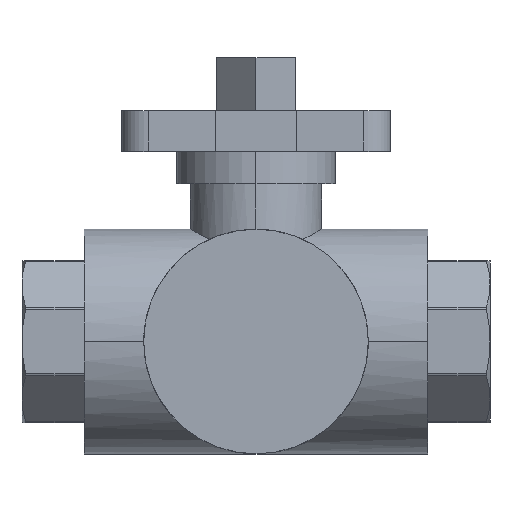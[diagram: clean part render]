
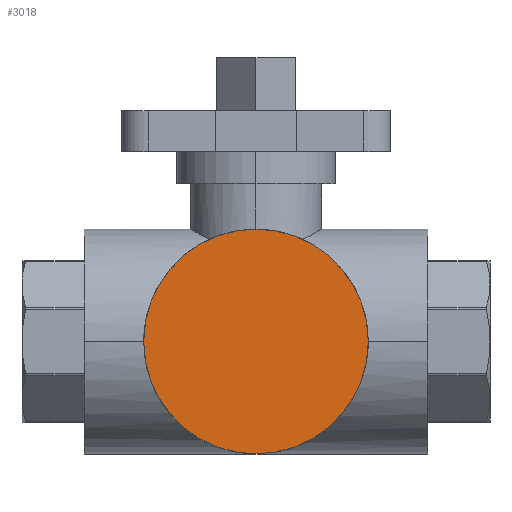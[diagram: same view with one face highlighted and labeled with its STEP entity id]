
A CAD part, top view. The second image highlights one B-rep face of the part: STEP entity #3018.
In plain terms, the highlighted planar face has unit normal (0, 0, 1).
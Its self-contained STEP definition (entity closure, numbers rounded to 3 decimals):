
#16 = VERTEX_POINT ( 'NONE', #419 ) ;
#374 = CIRCLE ( 'NONE', #3406, 18. ) ;
#419 = CARTESIAN_POINT ( 'NONE',  ( -18., 0., 18. ) ) ;
#507 = VERTEX_POINT ( 'NONE', #4413 ) ;
#764 = DIRECTION ( 'NONE',  ( -1., 0., 0. ) ) ;
#1202 = DIRECTION ( 'NONE',  ( 0., 0., 1. ) ) ;
#1990 = CARTESIAN_POINT ( 'NONE',  ( 0., 18., 18. ) ) ;
#2133 = DIRECTION ( 'NONE',  ( 0., 0., 1. ) ) ;
#2869 = CIRCLE ( 'NONE', #4003, 18. ) ;
#3018 = ADVANCED_FACE ( 'NONE', ( #4640 ), #5202, .F. ) ;
#3199 = DIRECTION ( 'NONE',  ( 0., 0., -1. ) ) ;
#3406 = AXIS2_PLACEMENT_3D ( 'NONE', #4552, #2133, #4950 ) ;
#3511 = ORIENTED_EDGE ( 'NONE', *, *, #4265, .T. ) ;
#3625 = CARTESIAN_POINT ( 'NONE',  ( 0., 0., 18. ) ) ;
#3807 = EDGE_CURVE ( 'NONE', #16, #507, #374, .T. ) ;
#4003 = AXIS2_PLACEMENT_3D ( 'NONE', #3625, #1202, #4038 ) ;
#4038 = DIRECTION ( 'NONE',  ( 1., 0., 0. ) ) ;
#4265 = EDGE_CURVE ( 'NONE', #507, #16, #2869, .T. ) ;
#4413 = CARTESIAN_POINT ( 'NONE',  ( 18., 0., 18. ) ) ;
#4486 = ORIENTED_EDGE ( 'NONE', *, *, #3807, .T. ) ;
#4552 = CARTESIAN_POINT ( 'NONE',  ( 0., 0., 18. ) ) ;
#4601 = EDGE_LOOP ( 'NONE', ( #4486, #3511 ) ) ;
#4640 = FACE_OUTER_BOUND ( 'NONE', #4601, .T. ) ;
#4950 = DIRECTION ( 'NONE',  ( 1., 0., 0. ) ) ;
#5029 = AXIS2_PLACEMENT_3D ( 'NONE', #1990, #3199, #764 ) ;
#5202 = PLANE ( 'NONE',  #5029 ) ;
